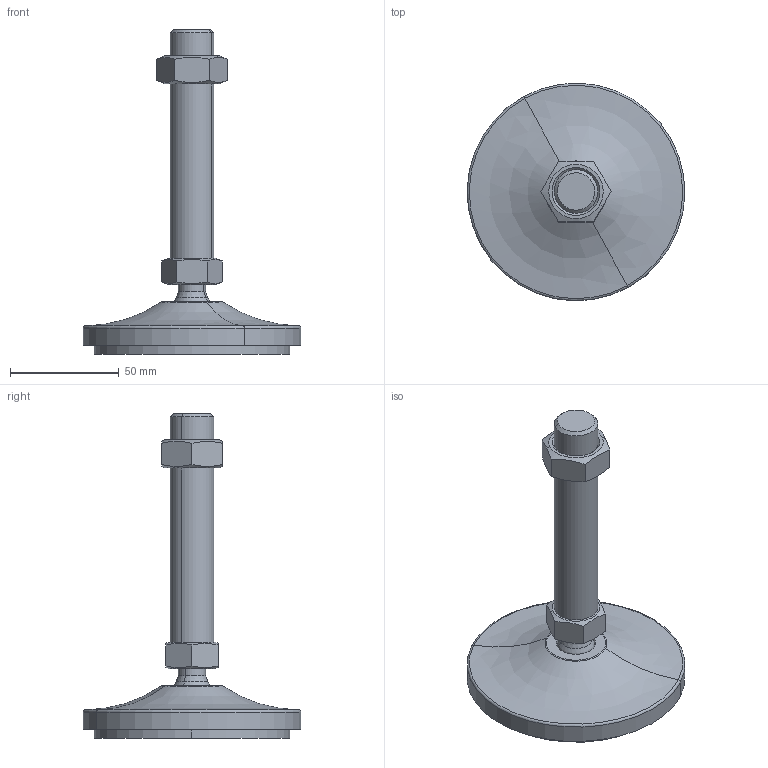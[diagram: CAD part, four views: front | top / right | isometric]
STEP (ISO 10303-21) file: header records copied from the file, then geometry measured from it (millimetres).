
FILE_DESCRIPTION(('CATIA V5 STEP Exchange'),'2;1');
FILE_NAME('C:\Users\ALI OZGUN\Desktop\alhan\saplama2\560102615AV.stp','2017-09-21T10:31:08+00:00',('none'),('none'),'CATIA Version 5 Release 21 GA (IN-10)','CATIA V5 STEP AP203','none');
FILE_SCHEMA(('CONFIG_CONTROL_DESIGN'));
Length unit declared in the file: millimetre
Products named in the file (1): 560102615AV
Bounding box: 99.97 x 99.97 x 149 mm (x, y, z)
Volume: 164927.7 mm3; surface area: 47669.7 mm2
Topology: 4 solids, 4 shells, 64 faces, 142 edges, 87 vertices
Faces by surface type: plane 22, cylinder 16, cone 16, torus 4, revolution 4, sphere 2
Entity records: 1957 total; most frequent: CARTESIAN_POINT 649, ORIENTED_EDGE 280, DIRECTION 197, EDGE_CURVE 140, AXIS2_PLACEMENT_3D 106, VERTEX_POINT 87, EDGE_LOOP 71, ADVANCED_FACE 64
